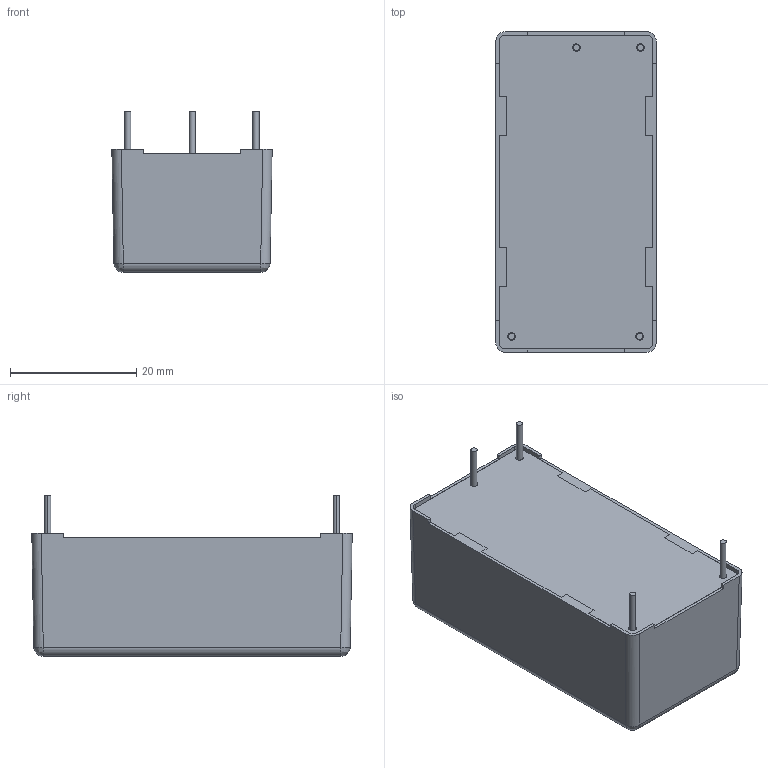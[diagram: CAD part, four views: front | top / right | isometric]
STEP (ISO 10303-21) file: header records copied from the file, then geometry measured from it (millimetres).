
FILE_DESCRIPTION (( 'STEP AP214' ), '1' );
FILE_NAME ('tmp07.STEP', '2015-02-20T08:39:58', ( '' ), ( '' ), 'SwSTEP 2.0', 'SolidWorks 2013', '' );
FILE_SCHEMA (( 'AUTOMOTIVE_DESIGN' ));
Length unit declared in the file: millimetre
Products named in the file (4): TMP 07 PIN; TMP 07 BASE; TMP 07 CASE; tmp07
Assembly tree (6 placements, depth 2):
  tmp07
    TMP 07 CASE
    TMP 07 BASE
    TMP 07 PIN  x4
Bounding box: 25.42 x 50.82 x 25.5 mm (x, y, z)
Volume: 4996.4 mm3; surface area: 10650.7 mm2
Topology: 6 solids, 6 shells, 203 faces, 528 edges, 340 vertices
Faces by surface type: plane 131, cylinder 44, bspline 16, cone 8, sphere 4
Entity records: 6674 total; most frequent: CARTESIAN_POINT 1824, ORIENTED_EDGE 1012, DIRECTION 910, EDGE_CURVE 506, LINE 386, VECTOR 386, VERTEX_POINT 328, AXIS2_PLACEMENT_3D 262
